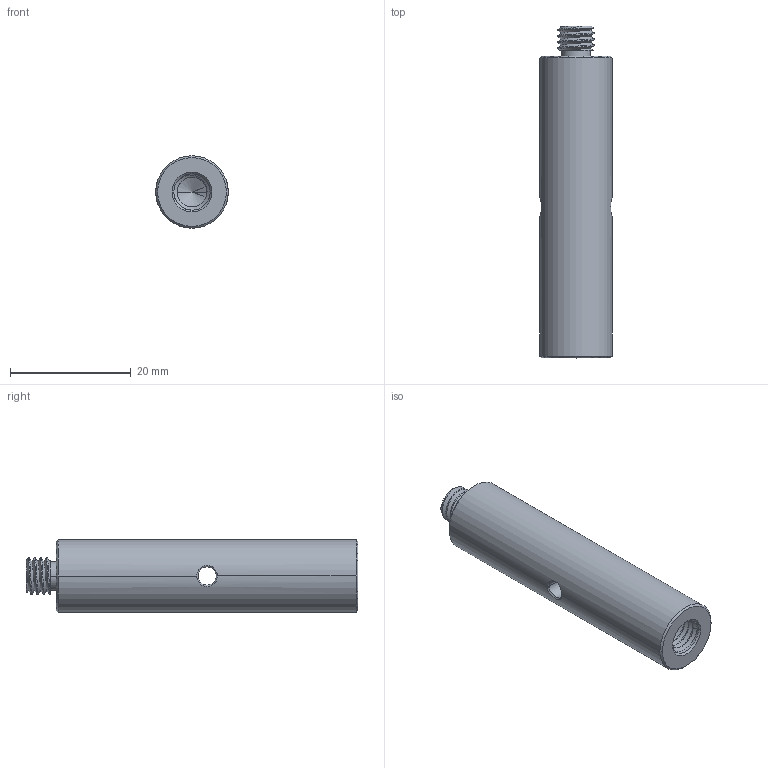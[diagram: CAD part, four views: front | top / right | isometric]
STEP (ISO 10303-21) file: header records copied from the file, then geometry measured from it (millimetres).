
FILE_DESCRIPTION((''),'2;1');
FILE_NAME('PCA5-A','2021-01-06T',('Administrator'),(''),'CREO PARAMETRIC BY PTC INC, 2015290','CREO PARAMETRIC BY PTC INC, 2015290','');
FILE_SCHEMA(('CONFIG_CONTROL_DESIGN'));
Length unit declared in the file: millimetre
Products named in the file (1): PCA5-A
Bounding box: 12 x 55 x 12 mm (x, y, z)
Volume: 5377.3 mm3; surface area: 2622.7 mm2
Topology: 1 solids, 1 shells, 67 faces, 173 edges, 106 vertices
Faces by surface type: cylinder 34, bspline 18, cone 9, plane 6
Entity records: 4951 total; most frequent: CARTESIAN_POINT 3502, ORIENTED_EDGE 342, DIRECTION 206, EDGE_CURVE 171, VERTEX_POINT 106, B_SPLINE_CURVE_WITH_KNOTS 85, AXIS2_PLACEMENT_3D 71, EDGE_LOOP 69
